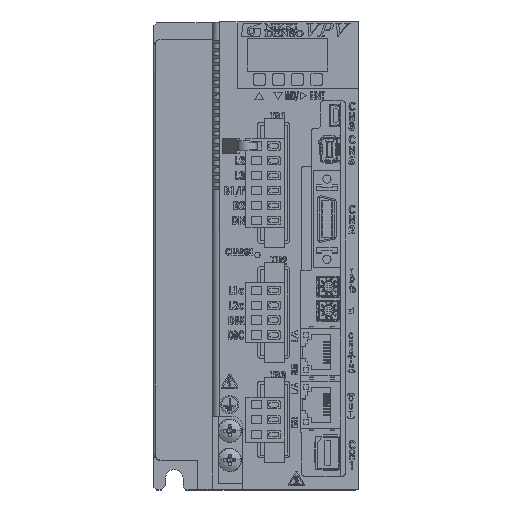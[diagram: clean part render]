
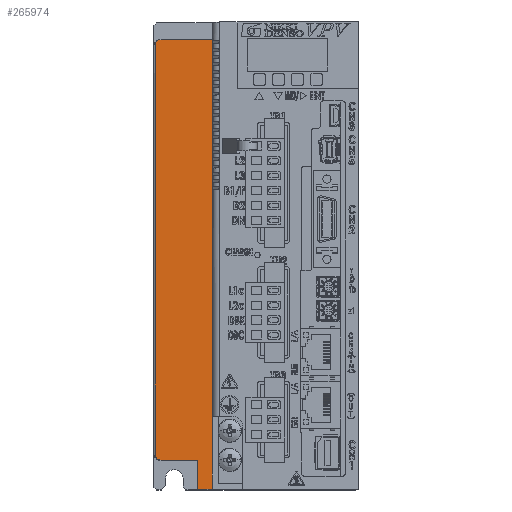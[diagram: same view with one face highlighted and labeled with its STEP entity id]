
A CAD part, top view. The second image highlights one B-rep face of the part: STEP entity #265974.
In plain terms, the highlighted planar face has unit normal (0, 0, 1).
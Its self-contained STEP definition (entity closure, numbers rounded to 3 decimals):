
#2936 = CARTESIAN_POINT ( 'NONE',  ( -69.5, -149., 151.5 ) ) ;
#13694 = DIRECTION ( 'NONE',  ( -1., 0., 0. ) ) ;
#16918 = VERTEX_POINT ( 'NONE', #220299 ) ;
#20538 = ORIENTED_EDGE ( 'NONE', *, *, #199299, .T. ) ;
#22101 = DIRECTION ( 'NONE',  ( 0., 1., 0. ) ) ;
#28856 = EDGE_CURVE ( 'NONE', #98171, #235292, #105423, .T. ) ;
#31253 = EDGE_CURVE ( 'NONE', #235292, #185194, #60827, .T. ) ;
#31954 = ORIENTED_EDGE ( 'NONE', *, *, #265006, .T. ) ;
#36828 = CARTESIAN_POINT ( 'NONE',  ( -50., -160., 151.5 ) ) ;
#46613 = VERTEX_POINT ( 'NONE', #90217 ) ;
#48373 = ORIENTED_EDGE ( 'NONE', *, *, #58380, .F. ) ;
#50234 = CARTESIAN_POINT ( 'NONE',  ( -50., -160., 151.5 ) ) ;
#50813 = LINE ( 'NONE', #112780, #107844 ) ;
#52129 = DIRECTION ( 'NONE',  ( 0., 1., 0. ) ) ;
#57357 = ORIENTED_EDGE ( 'NONE', *, *, #144788, .F. ) ;
#58380 = EDGE_CURVE ( 'NONE', #234932, #118064, #139210, .T. ) ;
#60652 = VECTOR ( 'NONE', #144527, 1000. ) ;
#60827 = CIRCLE ( 'NONE', #224196, 2.5 ) ;
#64746 = CARTESIAN_POINT ( 'NONE',  ( -55., -160., 151.5 ) ) ;
#73233 = VECTOR ( 'NONE', #180911, 1000. ) ;
#73587 = CARTESIAN_POINT ( 'NONE',  ( -55., -150., 151.5 ) ) ;
#73691 = DIRECTION ( 'NONE',  ( 1., 0., 0. ) ) ;
#78959 = VECTOR ( 'NONE', #132413, 1000. ) ;
#84771 = CARTESIAN_POINT ( 'NONE',  ( -67.5, -147.5, 151.5 ) ) ;
#90217 = CARTESIAN_POINT ( 'NONE',  ( -67.5, -6., 151.5 ) ) ;
#91870 = DIRECTION ( 'NONE',  ( 0., 0., -1. ) ) ;
#93913 = ORIENTED_EDGE ( 'NONE', *, *, #31253, .F. ) ;
#96846 = CARTESIAN_POINT ( 'NONE',  ( -50., -160., 151.5 ) ) ;
#98171 = VERTEX_POINT ( 'NONE', #73587 ) ;
#105100 = EDGE_CURVE ( 'NONE', #185194, #16918, #186394, .T. ) ;
#105423 = LINE ( 'NONE', #225274, #60652 ) ;
#107844 = VECTOR ( 'NONE', #52129, 1000. ) ;
#112780 = CARTESIAN_POINT ( 'NONE',  ( -50., -160., 151.5 ) ) ;
#113436 = FACE_OUTER_BOUND ( 'NONE', #206545, .T. ) ;
#114134 = CARTESIAN_POINT ( 'NONE',  ( -50., -6., 151.5 ) ) ;
#118002 = AXIS2_PLACEMENT_3D ( 'NONE', #198146, #91870, #13694 ) ;
#118064 = VERTEX_POINT ( 'NONE', #64746 ) ;
#123890 = DIRECTION ( 'NONE',  ( -1., 0., 0. ) ) ;
#125213 = ORIENTED_EDGE ( 'NONE', *, *, #196263, .F. ) ;
#132413 = DIRECTION ( 'NONE',  ( 0., 1., 0. ) ) ;
#135752 = CARTESIAN_POINT ( 'NONE',  ( -50., -158., 151.5 ) ) ;
#139210 = LINE ( 'NONE', #36828, #73233 ) ;
#140829 = CIRCLE ( 'NONE', #170995, 2.5 ) ;
#142802 = LINE ( 'NONE', #114134, #177022 ) ;
#144527 = DIRECTION ( 'NONE',  ( -1., 0., 0. ) ) ;
#144788 = EDGE_CURVE ( 'NONE', #16918, #46613, #140829, .T. ) ;
#166268 = VERTEX_POINT ( 'NONE', #183612 ) ;
#168554 = VECTOR ( 'NONE', #22101, 1000. ) ;
#169615 = DIRECTION ( 'NONE',  ( 0., 0., -1. ) ) ;
#170995 = AXIS2_PLACEMENT_3D ( 'NONE', #261183, #197936, #237024 ) ;
#171496 = VECTOR ( 'NONE', #180425, 1000. ) ;
#177022 = VECTOR ( 'NONE', #73691, 1000. ) ;
#180425 = DIRECTION ( 'NONE',  ( 0., 1., 0. ) ) ;
#180911 = DIRECTION ( 'NONE',  ( -1., 0., 0. ) ) ;
#183612 = CARTESIAN_POINT ( 'NONE',  ( -50., -6., 151.5 ) ) ;
#185194 = VERTEX_POINT ( 'NONE', #2936 ) ;
#186394 = LINE ( 'NONE', #265811, #168554 ) ;
#196263 = EDGE_CURVE ( 'NONE', #118064, #98171, #244976, .T. ) ;
#197936 = DIRECTION ( 'NONE',  ( 0., 0., -1. ) ) ;
#198146 = CARTESIAN_POINT ( 'NONE',  ( -50., -160., 151.5 ) ) ;
#199299 = EDGE_CURVE ( 'NONE', #231532, #166268, #50813, .T. ) ;
#200590 = CARTESIAN_POINT ( 'NONE',  ( -55., -160., 151.5 ) ) ;
#206545 = EDGE_LOOP ( 'NONE', ( #212860, #57357, #265475, #93913, #238517, #125213, #48373, #31954, #20538 ) ) ;
#212860 = ORIENTED_EDGE ( 'NONE', *, *, #262446, .F. ) ;
#220299 = CARTESIAN_POINT ( 'NONE',  ( -69.5, -7., 151.5 ) ) ;
#224196 = AXIS2_PLACEMENT_3D ( 'NONE', #84771, #169615, #123890 ) ;
#225274 = CARTESIAN_POINT ( 'NONE',  ( -55., -150., 151.5 ) ) ;
#231532 = VERTEX_POINT ( 'NONE', #135752 ) ;
#234678 = LINE ( 'NONE', #50234, #78959 ) ;
#234932 = VERTEX_POINT ( 'NONE', #96846 ) ;
#235292 = VERTEX_POINT ( 'NONE', #240559 ) ;
#237024 = DIRECTION ( 'NONE',  ( -1., 0., 0. ) ) ;
#238517 = ORIENTED_EDGE ( 'NONE', *, *, #28856, .F. ) ;
#240559 = CARTESIAN_POINT ( 'NONE',  ( -67.5, -150., 151.5 ) ) ;
#244976 = LINE ( 'NONE', #200590, #171496 ) ;
#256112 = PLANE ( 'NONE',  #118002 ) ;
#261183 = CARTESIAN_POINT ( 'NONE',  ( -67.5, -8.5, 151.5 ) ) ;
#262446 = EDGE_CURVE ( 'NONE', #46613, #166268, #142802, .T. ) ;
#265006 = EDGE_CURVE ( 'NONE', #234932, #231532, #234678, .T. ) ;
#265475 = ORIENTED_EDGE ( 'NONE', *, *, #105100, .F. ) ;
#265811 = CARTESIAN_POINT ( 'NONE',  ( -69.5, -160., 151.5 ) ) ;
#265974 = ADVANCED_FACE ( 'NONE', ( #113436 ), #256112, .F. ) ;
